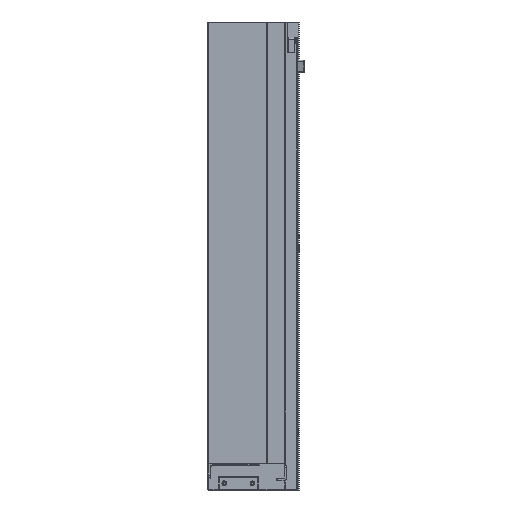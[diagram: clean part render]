
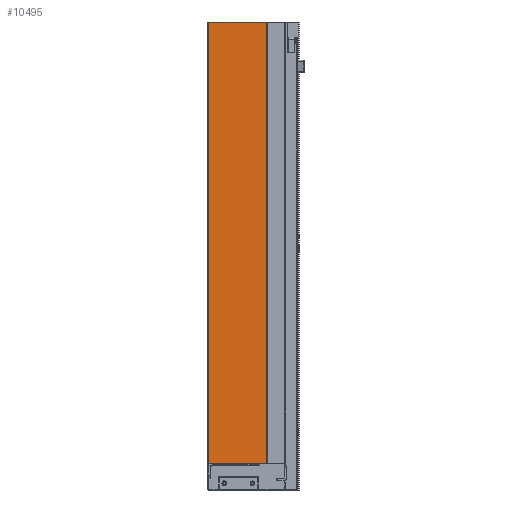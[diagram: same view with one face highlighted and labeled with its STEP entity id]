
A CAD part, left-side view. The second image highlights one B-rep face of the part: STEP entity #10495.
In plain terms, the highlighted planar face has unit normal (-1, 0, 0).
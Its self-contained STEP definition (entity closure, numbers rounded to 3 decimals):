
#259 = CARTESIAN_POINT ( 'NONE',  ( 0.5, 0., -512.455 ) ) ;
#402 = DIRECTION ( 'NONE',  ( 0., 0., 1. ) ) ;
#423 = VERTEX_POINT ( 'NONE', #10918 ) ;
#495 = EDGE_CURVE ( 'NONE', #6589, #4058, #7333, .T. ) ;
#1851 = EDGE_CURVE ( 'NONE', #8186, #423, #6699, .T. ) ;
#3205 = EDGE_CURVE ( 'NONE', #423, #4058, #6962, .T. ) ;
#3209 = ORIENTED_EDGE ( 'NONE', *, *, #495, .F. ) ;
#3422 = LINE ( 'NONE', #11657, #5689 ) ;
#4058 = VERTEX_POINT ( 'NONE', #7332 ) ;
#4097 = VECTOR ( 'NONE', #402, 1000. ) ;
#4386 = DIRECTION ( 'NONE',  ( 0., 1., 0. ) ) ;
#4415 = PLANE ( 'NONE',  #5881 ) ;
#4444 = CARTESIAN_POINT ( 'NONE',  ( 0.5, 0., 0. ) ) ;
#4701 = VECTOR ( 'NONE', #10339, 1000. ) ;
#5391 = DIRECTION ( 'NONE',  ( 0., 0., 1. ) ) ;
#5689 = VECTOR ( 'NONE', #6822, 1000. ) ;
#5881 = AXIS2_PLACEMENT_3D ( 'NONE', #8331, #11240, #5391 ) ;
#6589 = VERTEX_POINT ( 'NONE', #10353 ) ;
#6699 = LINE ( 'NONE', #259, #4097 ) ;
#6822 = DIRECTION ( 'NONE',  ( 0., 1., 0. ) ) ;
#6962 = LINE ( 'NONE', #4444, #11829 ) ;
#7214 = EDGE_CURVE ( 'NONE', #8186, #6589, #3422, .T. ) ;
#7332 = CARTESIAN_POINT ( 'NONE',  ( 0.5, 55.8, 0. ) ) ;
#7333 = LINE ( 'NONE', #10450, #4701 ) ;
#8040 = EDGE_LOOP ( 'NONE', ( #3209, #9495, #10289, #12203 ) ) ;
#8186 = VERTEX_POINT ( 'NONE', #12445 ) ;
#8331 = CARTESIAN_POINT ( 'NONE',  ( 0.5, 0., -512.455 ) ) ;
#8715 = FACE_OUTER_BOUND ( 'NONE', #8040, .T. ) ;
#9495 = ORIENTED_EDGE ( 'NONE', *, *, #7214, .F. ) ;
#10289 = ORIENTED_EDGE ( 'NONE', *, *, #1851, .T. ) ;
#10339 = DIRECTION ( 'NONE',  ( 0., 0., 1. ) ) ;
#10353 = CARTESIAN_POINT ( 'NONE',  ( 0.5, 55.8, -423.5 ) ) ;
#10450 = CARTESIAN_POINT ( 'NONE',  ( 0.5, 55.8, -512.455 ) ) ;
#10495 = ADVANCED_FACE ( 'NONE', ( #8715 ), #4415, .T. ) ;
#10918 = CARTESIAN_POINT ( 'NONE',  ( 0.5, 0., 0. ) ) ;
#11240 = DIRECTION ( 'NONE',  ( -1., 0., 0. ) ) ;
#11657 = CARTESIAN_POINT ( 'NONE',  ( 0.5, 0., -423.5 ) ) ;
#11829 = VECTOR ( 'NONE', #4386, 1000. ) ;
#12203 = ORIENTED_EDGE ( 'NONE', *, *, #3205, .T. ) ;
#12445 = CARTESIAN_POINT ( 'NONE',  ( 0.5, 0., -423.5 ) ) ;
